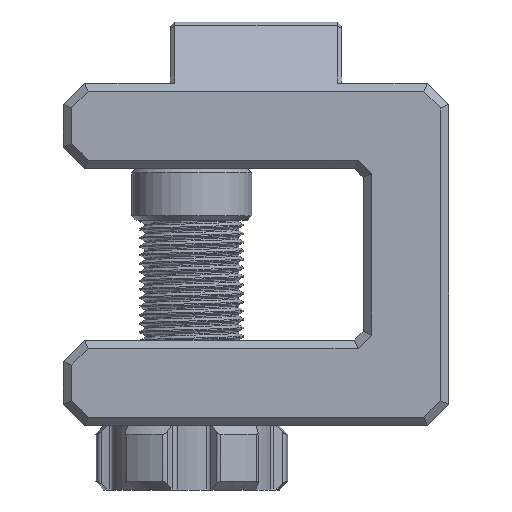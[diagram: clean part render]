
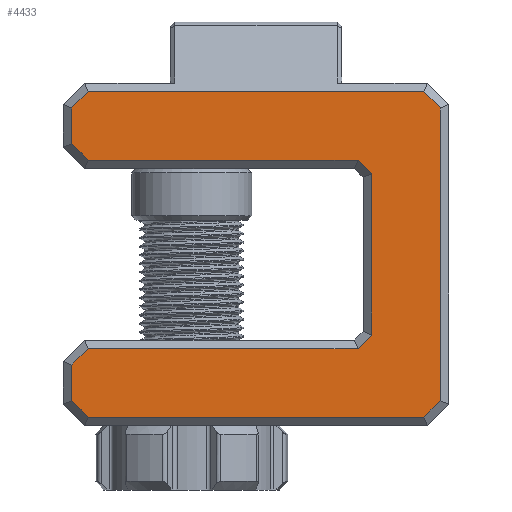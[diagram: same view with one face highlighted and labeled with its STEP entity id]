
A CAD part, left-side view. The second image highlights one B-rep face of the part: STEP entity #4433.
In plain terms, the highlighted planar face has unit normal (-1, 0, 0).
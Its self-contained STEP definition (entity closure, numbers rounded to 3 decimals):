
#586=FACE_OUTER_BOUND('',#840,.T.);
#840=EDGE_LOOP('',(#3125,#3126,#3127,#3128,#3129,#3130,#3131,#3132,#3133,
#3134,#3135,#3136,#3137,#3138,#3139,#3140));
#1165=LINE('',#6419,#1515);
#1166=LINE('',#6421,#1516);
#1167=LINE('',#6423,#1517);
#1168=LINE('',#6425,#1518);
#1169=LINE('',#6427,#1519);
#1170=LINE('',#6429,#1520);
#1171=LINE('',#6431,#1521);
#1172=LINE('',#6433,#1522);
#1173=LINE('',#6435,#1523);
#1174=LINE('',#6437,#1524);
#1175=LINE('',#6439,#1525);
#1176=LINE('',#6441,#1526);
#1177=LINE('',#6443,#1527);
#1178=LINE('',#6445,#1528);
#1179=LINE('',#6447,#1529);
#1180=LINE('',#6448,#1530);
#1515=VECTOR('',#5197,10.);
#1516=VECTOR('',#5198,10.);
#1517=VECTOR('',#5199,10.);
#1518=VECTOR('',#5200,10.);
#1519=VECTOR('',#5201,10.);
#1520=VECTOR('',#5202,10.);
#1521=VECTOR('',#5203,10.);
#1522=VECTOR('',#5204,10.);
#1523=VECTOR('',#5205,10.);
#1524=VECTOR('',#5206,10.);
#1525=VECTOR('',#5207,10.);
#1526=VECTOR('',#5208,10.);
#1527=VECTOR('',#5209,10.);
#1528=VECTOR('',#5210,10.);
#1529=VECTOR('',#5211,10.);
#1530=VECTOR('',#5212,10.);
#1835=VERTEX_POINT('',#6417);
#1836=VERTEX_POINT('',#6418);
#1837=VERTEX_POINT('',#6420);
#1838=VERTEX_POINT('',#6422);
#1839=VERTEX_POINT('',#6424);
#1840=VERTEX_POINT('',#6426);
#1841=VERTEX_POINT('',#6428);
#1842=VERTEX_POINT('',#6430);
#1843=VERTEX_POINT('',#6432);
#1844=VERTEX_POINT('',#6434);
#1845=VERTEX_POINT('',#6436);
#1846=VERTEX_POINT('',#6438);
#1847=VERTEX_POINT('',#6440);
#1848=VERTEX_POINT('',#6442);
#1849=VERTEX_POINT('',#6444);
#1850=VERTEX_POINT('',#6446);
#2331=EDGE_CURVE('',#1835,#1836,#1165,.T.);
#2332=EDGE_CURVE('',#1837,#1835,#1166,.T.);
#2333=EDGE_CURVE('',#1838,#1837,#1167,.T.);
#2334=EDGE_CURVE('',#1839,#1838,#1168,.T.);
#2335=EDGE_CURVE('',#1840,#1839,#1169,.T.);
#2336=EDGE_CURVE('',#1841,#1840,#1170,.T.);
#2337=EDGE_CURVE('',#1842,#1841,#1171,.T.);
#2338=EDGE_CURVE('',#1843,#1842,#1172,.T.);
#2339=EDGE_CURVE('',#1844,#1843,#1173,.T.);
#2340=EDGE_CURVE('',#1845,#1844,#1174,.T.);
#2341=EDGE_CURVE('',#1846,#1845,#1175,.T.);
#2342=EDGE_CURVE('',#1847,#1846,#1176,.T.);
#2343=EDGE_CURVE('',#1848,#1847,#1177,.T.);
#2344=EDGE_CURVE('',#1849,#1848,#1178,.T.);
#2345=EDGE_CURVE('',#1850,#1849,#1179,.T.);
#2346=EDGE_CURVE('',#1836,#1850,#1180,.T.);
#3125=ORIENTED_EDGE('',*,*,#2331,.F.);
#3126=ORIENTED_EDGE('',*,*,#2332,.F.);
#3127=ORIENTED_EDGE('',*,*,#2333,.F.);
#3128=ORIENTED_EDGE('',*,*,#2334,.F.);
#3129=ORIENTED_EDGE('',*,*,#2335,.F.);
#3130=ORIENTED_EDGE('',*,*,#2336,.F.);
#3131=ORIENTED_EDGE('',*,*,#2337,.F.);
#3132=ORIENTED_EDGE('',*,*,#2338,.F.);
#3133=ORIENTED_EDGE('',*,*,#2339,.F.);
#3134=ORIENTED_EDGE('',*,*,#2340,.F.);
#3135=ORIENTED_EDGE('',*,*,#2341,.F.);
#3136=ORIENTED_EDGE('',*,*,#2342,.F.);
#3137=ORIENTED_EDGE('',*,*,#2343,.F.);
#3138=ORIENTED_EDGE('',*,*,#2344,.F.);
#3139=ORIENTED_EDGE('',*,*,#2345,.F.);
#3140=ORIENTED_EDGE('',*,*,#2346,.F.);
#4339=PLANE('',#4712);
#4433=ADVANCED_FACE('',(#586),#4339,.T.);
#4712=AXIS2_PLACEMENT_3D('',#6416,#5195,#5196);
#5195=DIRECTION('center_axis',(-1.,0.,0.));
#5196=DIRECTION('ref_axis',(0.,0.,1.));
#5197=DIRECTION('',(0.,0.,1.));
#5198=DIRECTION('',(0.,0.707,0.707));
#5199=DIRECTION('',(0.,1.,0.));
#5200=DIRECTION('',(0.,0.707,0.707));
#5201=DIRECTION('',(0.,0.,1.));
#5202=DIRECTION('',(0.,-0.707,0.707));
#5203=DIRECTION('',(0.,-1.,0.));
#5204=DIRECTION('',(0.,-0.707,0.707));
#5205=DIRECTION('',(0.,0.,1.));
#5206=DIRECTION('',(0.,0.707,0.707));
#5207=DIRECTION('',(0.,1.,0.));
#5208=DIRECTION('',(0.,0.707,-0.707));
#5209=DIRECTION('',(0.,0.,-1.));
#5210=DIRECTION('',(0.,-0.707,-0.707));
#5211=DIRECTION('',(0.,-1.,0.));
#5212=DIRECTION('',(0.,-0.707,0.707));
#6416=CARTESIAN_POINT('Origin',(-17.5,-45.,0.));
#6417=CARTESIAN_POINT('',(-17.5,33.,25.828));
#6418=CARTESIAN_POINT('',(-17.5,33.,34.172));
#6419=CARTESIAN_POINT('',(-17.5,33.,10.));
#6420=CARTESIAN_POINT('',(-17.5,29.172,22.));
#6421=CARTESIAN_POINT('',(-17.5,6.086,-1.086));
#6422=CARTESIAN_POINT('',(-17.5,-33.828,22.));
#6423=CARTESIAN_POINT('',(-17.5,-40.,22.));
#6424=CARTESIAN_POINT('',(-17.5,-37.,18.828));
#6425=CARTESIAN_POINT('',(-17.5,-42.914,12.914));
#6426=CARTESIAN_POINT('',(-17.5,-37.,-18.828));
#6427=CARTESIAN_POINT('',(-17.5,-37.,-10.));
#6428=CARTESIAN_POINT('',(-17.5,-33.828,-22.));
#6429=CARTESIAN_POINT('',(-17.5,-42.914,-12.914));
#6430=CARTESIAN_POINT('',(-17.5,29.172,-22.));
#6431=CARTESIAN_POINT('',(-17.5,-5.,-22.));
#6432=CARTESIAN_POINT('',(-17.5,33.,-25.828));
#6433=CARTESIAN_POINT('',(-17.5,6.086,1.086));
#6434=CARTESIAN_POINT('',(-17.5,33.,-34.172));
#6435=CARTESIAN_POINT('',(-17.5,33.,-20.));
#6436=CARTESIAN_POINT('',(-17.5,29.172,-38.));
#6437=CARTESIAN_POINT('',(-17.5,21.086,-46.086));
#6438=CARTESIAN_POINT('',(-17.5,-49.172,-38.));
#6439=CARTESIAN_POINT('',(-17.5,-50.,-38.));
#6440=CARTESIAN_POINT('',(-17.5,-53.,-34.172));
#6441=CARTESIAN_POINT('',(-17.5,-58.586,-28.586));
#6442=CARTESIAN_POINT('',(-17.5,-53.,34.172));
#6443=CARTESIAN_POINT('',(-17.5,-53.,20.));
#6444=CARTESIAN_POINT('',(-17.5,-49.172,38.));
#6445=CARTESIAN_POINT('',(-17.5,-58.586,28.586));
#6446=CARTESIAN_POINT('',(-17.5,29.172,38.));
#6447=CARTESIAN_POINT('',(-17.5,-5.,38.));
#6448=CARTESIAN_POINT('',(-17.5,21.086,46.086));
